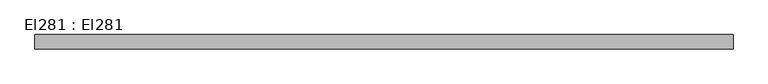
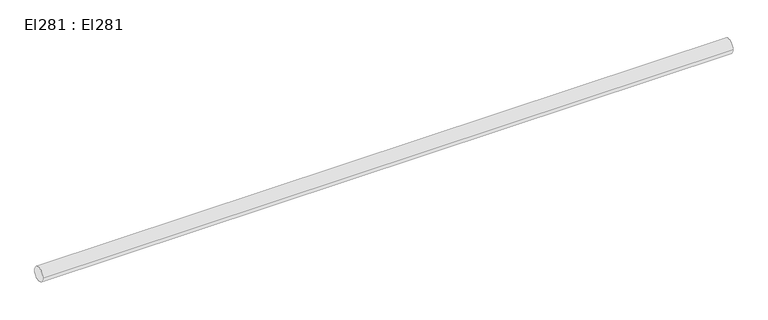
"""IFC4 building model written with IfcOpenShell, lengths in millimetres: cable carrier segment geometry, El281 : El281."""

from ifc_helpers import new_model, si_unit, point, frame, frame_2d, origin, place, context, project, spatial, circle_curve, trimmed, segment, composite_curve, outline, extrude, source, transform, mapped, element, save


def el281_el281_c1be5198(model_context):
    return source(origin(), model_context, "Body", "SweptSolid", [
        extrude(outline(composite_curve([segment(trimmed(circle_curve(frame_2d((14766.3, 2950.0)), 37.5), [point((14728.8, 2950.0))], [point((14803.8, 2950.0))], False, "CARTESIAN"), True, "CONTINUOUS"), segment(trimmed(circle_curve(frame_2d((14766.3, 2950.0)), 37.5), [point((14803.8, 2950.0))], [point((14728.8, 2950.0))], False, "CARTESIAN"), True, "CONTINUOUS")], self_intersect=False)), frame((18601.65, 0.0, 0.0), z_axis=(1.0, 0.0, 0.0), x_axis=(0.0, 1.0, 0.0)), (0.0, 0.0, 1.0), 3619.51),
    ])


if __name__ == "__main__":
    model = new_model("IFC4")
    model_context = context("Model", 3, world=origin())
    ifc_project = project(units=[si_unit("LENGTHUNIT", "METRE", prefix="MILLI")], contexts=[model_context])
    site = spatial("IfcSite", under=ifc_project)
    building = spatial("IfcBuilding", under=site)
    placement = place(None, origin())
    el281_el281_shape = el281_el281_c1be5198(model_context)
    element("IfcCableCarrierSegment", 1, ObjectType="El281 : El281", at=placement, inside=building, context=model_context, shape_type="MappedRepresentation", body=[
        mapped(el281_el281_shape, transform((0.0, 0.0, 0.0), x_axis=(1.0, 0.0, 0.0), y_axis=(0.0, 1.0, 0.0), z_axis=(0.0, 0.0, 1.0))),
    ])
    save(model, "model.ifc")
